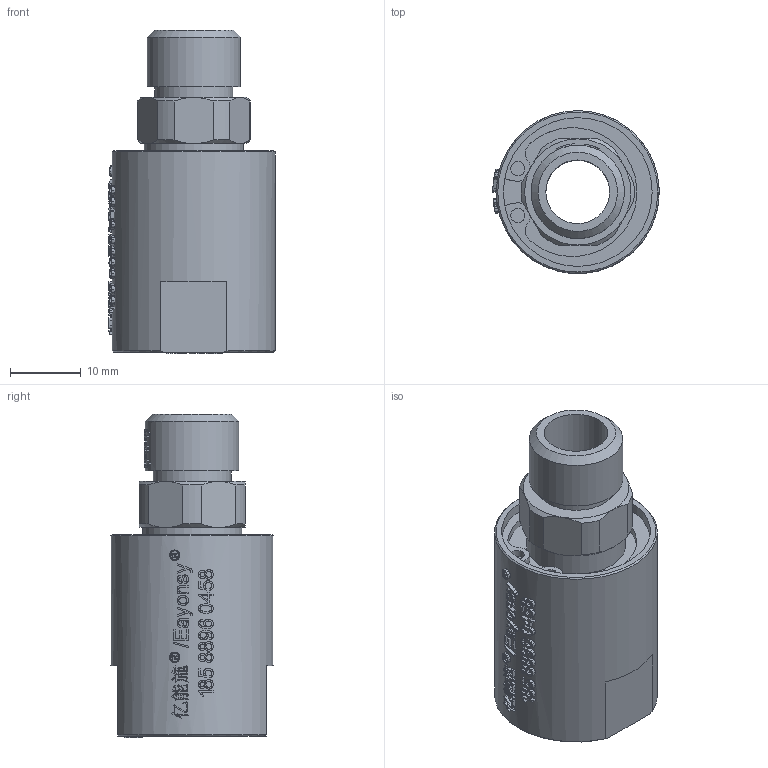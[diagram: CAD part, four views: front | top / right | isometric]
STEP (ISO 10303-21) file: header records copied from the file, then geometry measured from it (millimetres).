
FILE_DESCRIPTION(/* description */ (''),/* implementation_level */ '2;1');
FILE_NAME(/* name */ 'YYK0102(RH)-3D模型.stp',/* time_stamp */ '2025-07-09T08:52:01+08:00',/* author */ (''),/* organization */ (''),/* preprocessor_version */ 'ST-DEVELOPER v16.7',/* originating_system */ 'SIEMENS PLM Software NX 12.0',/* authorisation */ '');
FILE_SCHEMA (('AUTOMOTIVE_DESIGN { 1 0 10303 214 3 1 1 1 }'));
Products named in the file (1): Admi1300D6723vjs
Bounding box: 23.5 x 22.96 x 45.7 mm (x, y, z)
Volume: 10689.3 mm3; surface area: 5478.4 mm2
Topology: 1 solids, 1 shells, 1069 faces, 2939 edges, 1955 vertices
Faces by surface type: extrusion 605, plane 354, cylinder 51, bspline 43, cone 16
Full cylindrical faces by diameter (mm): 2 x2, 9 x1, 9.5 x1, 11 x1, 11.5 x1, 13.2 x1, 14 x1, 21 x1, 22 x1, 23 x1
Entity records: 43746 total; most frequent: CARTESIAN_POINT 21270, ORIENTED_EDGE 5842, EDGE_CURVE 2921, B_SPLINE_CURVE_WITH_KNOTS 2880, DIRECTION 2160, VERTEX_POINT 1950, EDGE_LOOP 1167, VECTOR 1082
